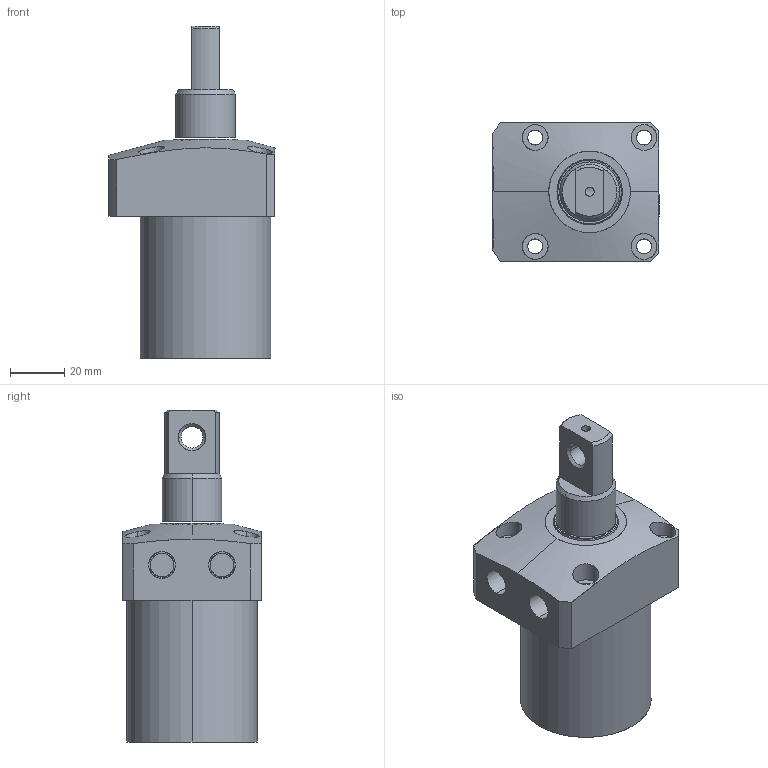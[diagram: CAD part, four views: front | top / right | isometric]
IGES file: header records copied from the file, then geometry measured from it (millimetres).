
Start section: SolidWorks IGES file using analytic representation for surfaces
Global section: file name: E:\karthik\CLASYS\Pneumatic Swing cylinders\Top mount cyl 0311-P\48\0312-0481.IGS; native system: SolidWorks 2010; preprocessor: SolidWorks 2010; author: karthik; date: 130916.101958; units: millimetre
Bounding box: 61 x 51 x 122 mm (x, y, z)
Surface area: 25767.1 mm2 (no closed solid volume)
Topology: 0 solids, 0 shells, 105 faces, 2610 edges, 2610 vertices
Faces by surface type: revolution 76, bspline 29
